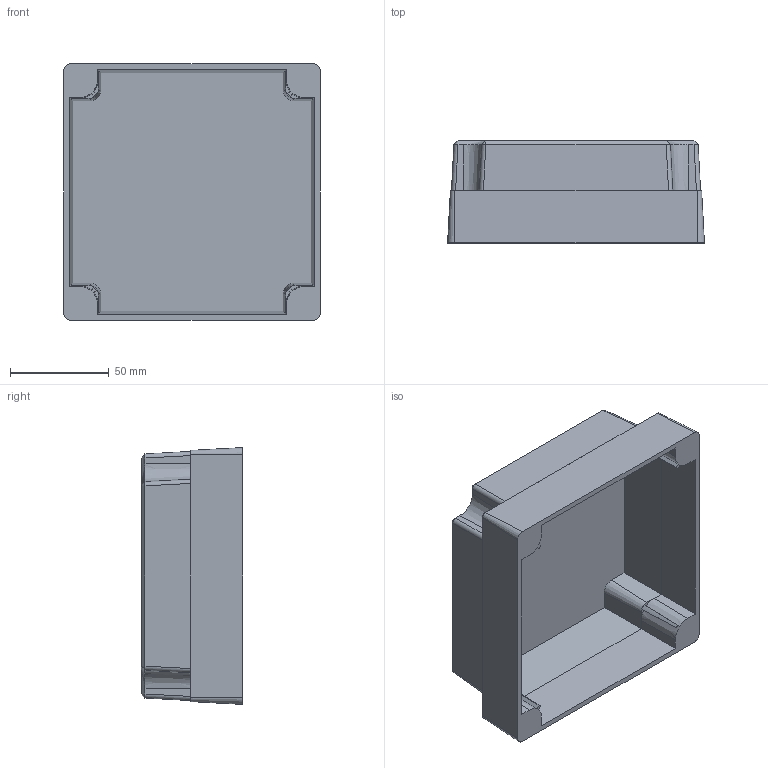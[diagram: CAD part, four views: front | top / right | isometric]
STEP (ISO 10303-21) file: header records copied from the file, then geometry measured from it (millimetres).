
FILE_DESCRIPTION (( 'STEP AP203' ), '1' );
FILE_NAME ('FIBOX_MNX12550C.STEP', '2005-06-30T06:51:14', ( ' ' ), ( ' ' ), 'SwSTEP 2.0', 'SolidWorks 2005143', '' );
FILE_SCHEMA (( 'CONFIG_CONTROL_DESIGN' ));
Length unit declared in the file: millimetre
Products named in the file (1): FIBOX_MNX12550C
Bounding box: 130 x 51.6 x 130 mm (x, y, z)
Volume: 91486.4 mm3; surface area: 82282.5 mm2
Topology: 1 solids, 1 shells, 119 faces, 320 edges, 210 vertices
Faces by surface type: plane 73, cone 24, cylinder 20, bspline 2
Entity records: 6378 total; most frequent: CARTESIAN_POINT 3383, ORIENTED_EDGE 640, DIRECTION 568, EDGE_CURVE 320, VERTEX_POINT 210, AXIS2_PLACEMENT_3D 194, VECTOR 180, LINE 180
